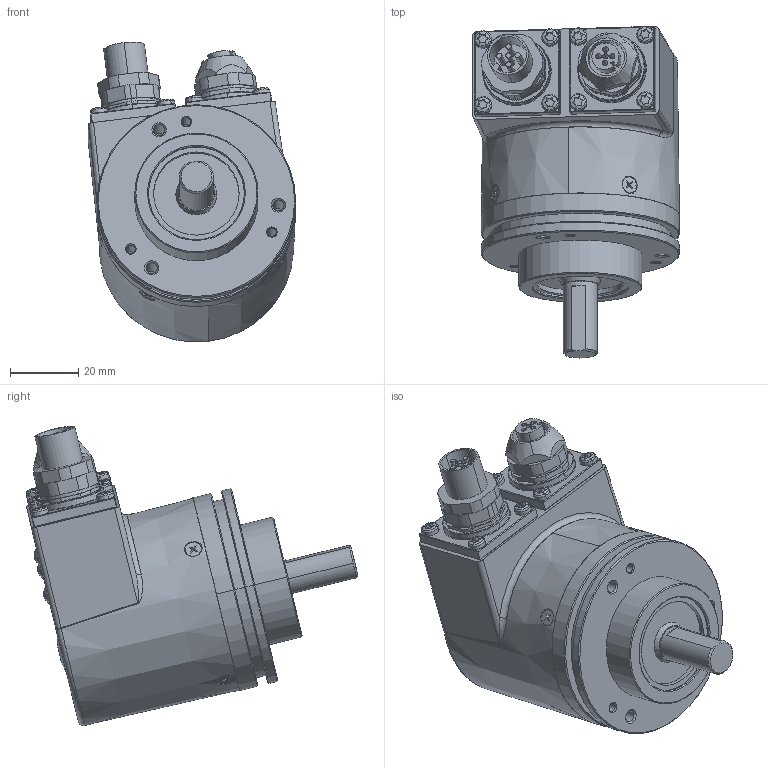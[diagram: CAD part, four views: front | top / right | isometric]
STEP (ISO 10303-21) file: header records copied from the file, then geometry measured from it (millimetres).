
FILE_DESCRIPTION (( 'STEP AP203' ), '1' );
FILE_NAME ('8.F5868.322F.2112.STEP', '2013-02-04T15:33:23', ( 'Hodot' ), ( '' ), 'SwSTEP 2.0', 'SolidWorks 2012', '' );
FILE_SCHEMA (( 'CONFIG_CONTROL_DESIGN' ));
Length unit declared in the file: millimetre
Products named in the file (1): 8.F5868.322F.2112
Bounding box: 60.56 x 97.01 x 87.68 mm (x, y, z)
Volume: 83707.8 mm3; surface area: 56463.5 mm2
Topology: 28 solids, 28 shells, 1367 faces, 3130 edges, 1891 vertices
Faces by surface type: plane 456, cylinder 448, cone 257, torus 136, sphere 41, bspline 29
Entity records: 40157 total; most frequent: CARTESIAN_POINT 8710, DIRECTION 7091, ORIENTED_EDGE 6192, EDGE_CURVE 3096, AXIS2_PLACEMENT_3D 2876, VERTEX_POINT 1891, CIRCLE 1537, EDGE_LOOP 1525
